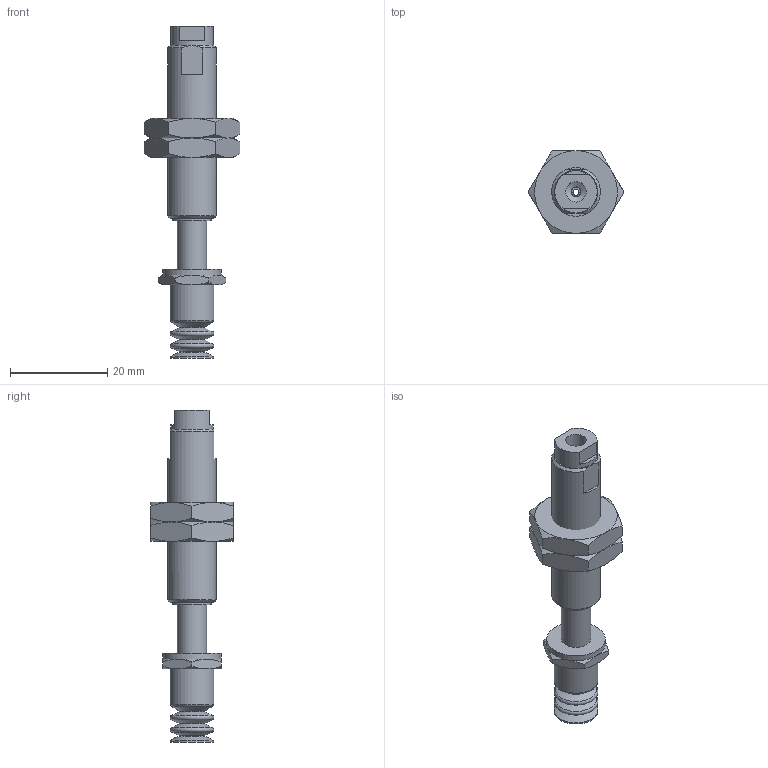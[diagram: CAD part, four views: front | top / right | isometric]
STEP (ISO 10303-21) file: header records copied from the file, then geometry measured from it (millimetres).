
FILE_DESCRIPTION(('STEP AP203'),'1');
FILE_NAME('-LB.stp','2025-04-04T01:57:44',(' '),(' '),'Spatial InterOp 3D',' ',' ');
FILE_SCHEMA(('CONFIG_CONTROL_DESIGN'));
Length unit declared in the file: millimetre
Products named in the file (7): BNABPCTH-10-10-※-LB; __; BODY; NUT; BPCG-10-※; TN-PC-10-M5
Assembly tree (6 placements, depth 2):
  BNABPCTH-10-10-※-LB
    __
    BODY
    NUT
    NUT
    BPCG-10-※
    TN-PC-10-M5
Bounding box: 19.63 x 17 x 68.2 mm (x, y, z)
Volume: 5595.9 mm3; surface area: 4851.2 mm2
Topology: 6 solids, 6 shells, 123 faces, 253 edges, 148 vertices
Faces by surface type: cone 50, plane 44, cylinder 19, torus 8, sphere 2
Full cylindrical faces by diameter (mm): 1.25 x1, 2 x1, 4 x1, 4.2 x2, 5 x5, 6 x1, 8 x1, 8.7 x1, 9 x4, 10 x1, 12 x1
Entity records: 3428 total; most frequent: CARTESIAN_POINT 738, DIRECTION 492, ORIENTED_EDGE 416, AXIS2_PLACEMENT_3D 230, EDGE_CURVE 208, EDGE_LOOP 182, FACE_OUTER_BOUND 152, VERTEX_POINT 144
